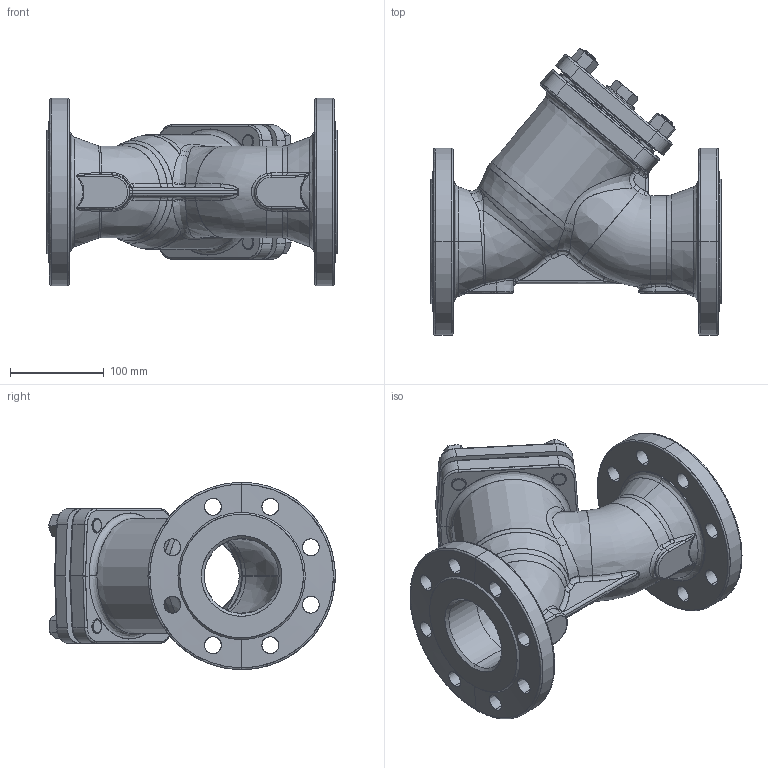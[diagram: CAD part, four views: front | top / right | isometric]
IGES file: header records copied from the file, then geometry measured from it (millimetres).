
Start section: SolidWorks IGES file using analytic representation for surfaces
Global section: file name: D:\Archiwum SolidWorks\staliwo\821\PN40\CAD\821_DN80 PN40.IGS; native system: SolidWorks 2010; preprocessor: SolidWorks 2010; author: wtarnaws; date: 100113.080856; units: millimetre
Bounding box: 310 x 305.98 x 200 mm (x, y, z)
Surface area: 475002 mm2 (no closed solid volume)
Topology: 0 solids, 0 shells, 656 faces, 10975 edges, 10970 vertices
Faces by surface type: revolution 334, bspline 322
